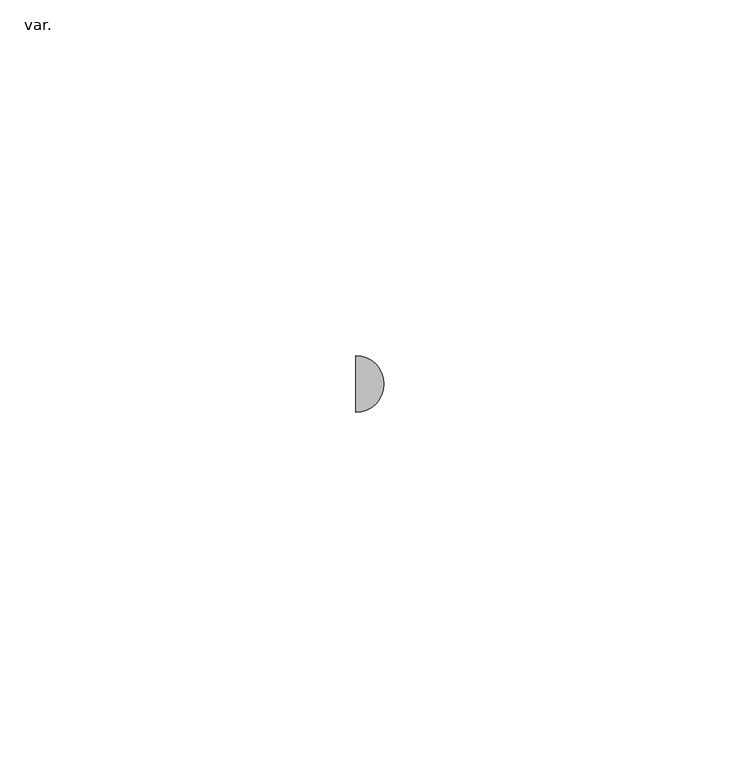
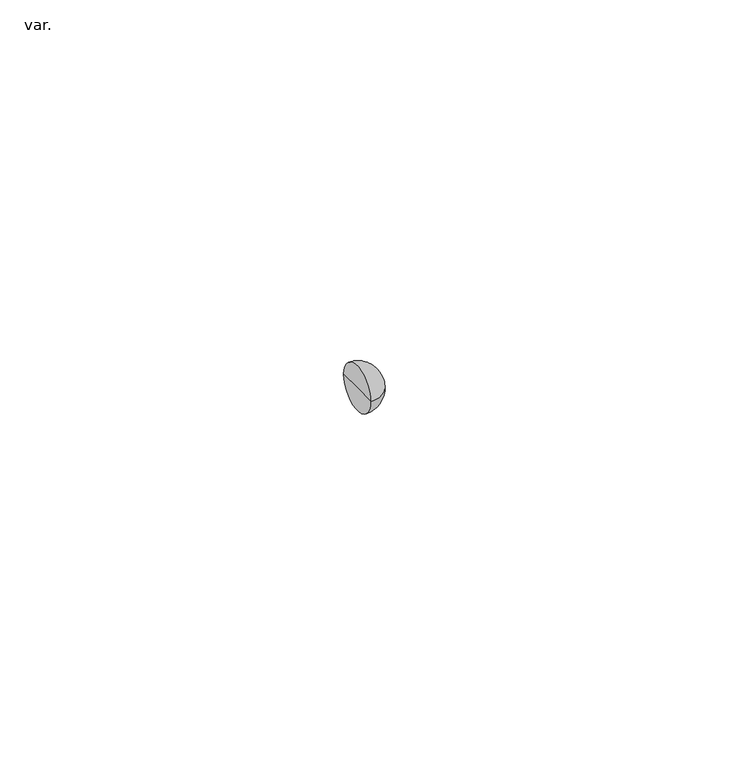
"""IFC4 building model written with IfcOpenShell, lengths in millimetres: pipe fitting geometry, NLRS_52_PIF_UN_Vacurain Flex multi bocht_Dyka : var.."""

from ifc_helpers import new_model, si_unit, point, frame, origin, place, context, project, spatial, circle_curve, ellipse_curve, trimmed, source, transform, mapped, element, save
from ifc_brep_helpers import plane_surface, revolved_surface, advanced_brep


def var_ccfafadd(model_context):
    return source(origin(), model_context, "Body", "AdvancedBrep", [
        advanced_brep(
        [(-110.3172798, -4.0, 0.0), (-110.3172798, 4.0, 0.0), (-106.3172798, 0.0, 0.0), (-110.3172798, 0.0, 0.0)],
        [
            (0, 1, circle_curve(frame((-110.3172798, 0.0, 0.0), z_axis=(1.0, 0.0, 0.0), x_axis=(0.0, 1.0, 0.0)), 4.0)),
            (1, 2, circle_curve(frame((-110.3172798, 0.0, 0.0), z_axis=(0.0, 0.0, -1.0), x_axis=(1.0, 0.0, 0.0)), 4.0)),
            (2, 0, circle_curve(frame((-110.3172798, 0.0, 0.0), z_axis=(0.0, 0.0, -1.0), x_axis=(1.0, 0.0, 0.0)), 4.0)),
            (1, 0, circle_curve(frame((-110.3172798, 0.0, 0.0), z_axis=(1.0, 0.0, 0.0), x_axis=(0.0, 1.0, 0.0)), 4.0)),
            (3, 1),
            (0, 3),
        ],
        [
            revolved_surface(trimmed(ellipse_curve(frame((-110.3172798, 0.0, 0.0), z_axis=(0.0, 0.0, 1.0), x_axis=(1.0, 0.0, 0.0)), 4.0, 4.0), [point((-106.3172798, 0.0, 0.0))], [point((-110.3172798, 4.0, 0.0))], True, "CARTESIAN"), (-108.3172798, 0.0, 0.0), (-1.0, 0.0, 0.0)),
            plane_surface(frame((-110.3172798, 0.0, 0.0), z_axis=(-1.0, 0.0, 0.0), x_axis=(0.0, 1.0, 0.0))),
        ],
        [
            (0, [[1, 2, 3]]),
            (0, [[4, -3, -2]]),
            (1, [[5, -1, 6]]),
            (1, [[-6, -4, -5]]),
        ],
    ),
    ])


if __name__ == "__main__":
    model = new_model("IFC4")
    model_context = context("Model", 3, world=origin())
    ifc_project = project(units=[si_unit("LENGTHUNIT", "METRE", prefix="MILLI")], contexts=[model_context])
    site = spatial("IfcSite", under=ifc_project)
    building = spatial("IfcBuilding", under=site)
    placement = place(None, origin())
    var_shape = var_ccfafadd(model_context)
    element("IfcPipeFitting", 1, ObjectType="NLRS_52_PIF_UN_Vacurain Flex multi bocht_Dyka : var.", at=placement, inside=building, context=model_context, shape_type="MappedRepresentation", body=[
        mapped(var_shape, transform((0.0, 0.0, 0.0), x_axis=(1.0, 0.0, 0.0), y_axis=(0.0, 1.0, 0.0), z_axis=(0.0, 0.0, 1.0))),
    ])
    save(model, "model.ifc")
